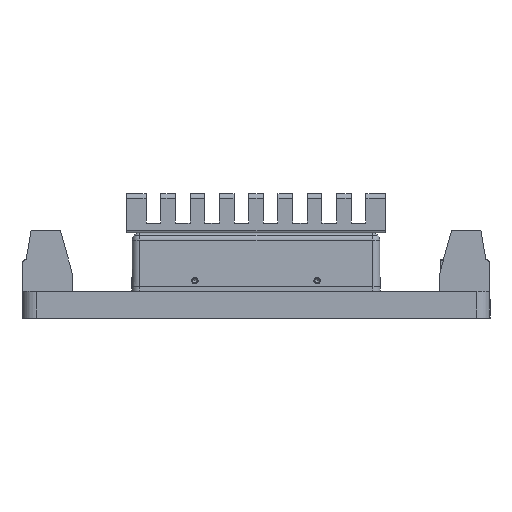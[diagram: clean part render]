
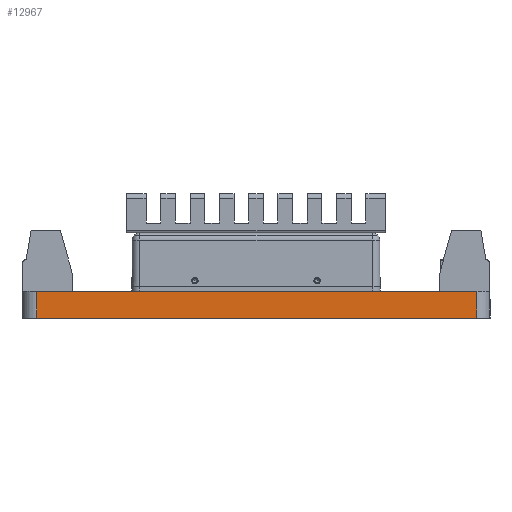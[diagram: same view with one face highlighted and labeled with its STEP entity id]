
A CAD part, front view. The second image highlights one B-rep face of the part: STEP entity #12967.
In plain terms, the highlighted planar face has unit normal (0, -1, 0) as drawn and (1, 0, 0) by its records, which use the part's own axes.
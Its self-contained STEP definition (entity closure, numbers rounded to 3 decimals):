
#699=PLANE($,#13743);
#1252=FACE_OUTER_BOUND($,#1978,.T.);
#1978=EDGE_LOOP($,(#9227,#9228,#9229,#9230));
#2877=LINE($,#18649,#4378);
#2971=LINE($,#18859,#4472);
#2972=LINE($,#18863,#4473);
#2973=LINE($,#18864,#4474);
#4378=VECTOR($,#14903,90.088);
#4472=VECTOR($,#15077,5.5);
#4473=VECTOR($,#15082,5.5);
#4474=VECTOR($,#15083,90.088);
#5879=VERTEX_POINT($,#18646);
#5880=VERTEX_POINT($,#18648);
#5956=VERTEX_POINT($,#18858);
#5957=VERTEX_POINT($,#18862);
#7155=EDGE_CURVE($,#5880,#5879,#2877,.T.);
#7259=EDGE_CURVE($,#5956,#5880,#2971,.T.);
#7261=EDGE_CURVE($,#5957,#5879,#2972,.T.);
#7262=EDGE_CURVE($,#5957,#5956,#2973,.T.);
#9227=ORIENTED_EDGE($,*,*,#7155,.T.);
#9228=ORIENTED_EDGE($,*,*,#7261,.F.);
#9229=ORIENTED_EDGE($,*,*,#7262,.T.);
#9230=ORIENTED_EDGE($,*,*,#7259,.T.);
#12967=ADVANCED_FACE($,(#1252),#699,.T.);
#13743=AXIS2_PLACEMENT_3D($,#18861,#15080,#15081);
#14903=DIRECTION($,(0.,-1.,0.));
#15077=DIRECTION($,(0.,0.,1.));
#15080=DIRECTION('center_axis',(1.,0.,0.));
#15081=DIRECTION('ref_axis',(0.,0.,-1.));
#15082=DIRECTION($,(0.,0.,1.));
#15083=DIRECTION($,(0.,1.,0.));
#18646=CARTESIAN_POINT('',(56.166,2.476,5.5));
#18648=CARTESIAN_POINT('',(56.166,92.564,5.5));
#18649=CARTESIAN_POINT($,(56.166,2.476,5.5));
#18858=CARTESIAN_POINT('',(56.166,92.564,0.));
#18859=CARTESIAN_POINT($,(56.166,92.564,0.));
#18861=CARTESIAN_POINT('Origin',(56.166,92.564,0.));
#18862=CARTESIAN_POINT('',(56.166,2.476,0.));
#18863=CARTESIAN_POINT($,(56.166,2.476,0.));
#18864=CARTESIAN_POINT($,(56.166,2.476,0.));
